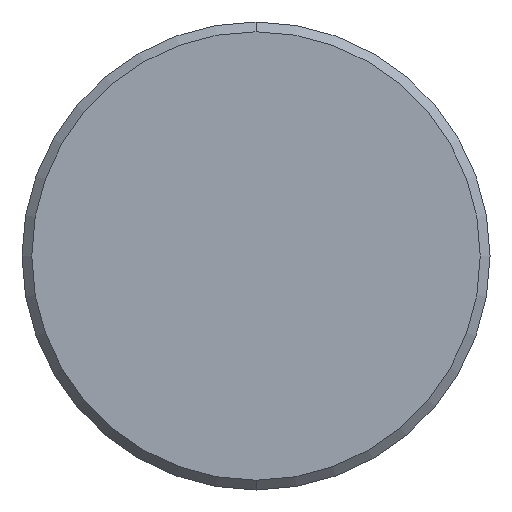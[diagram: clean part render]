
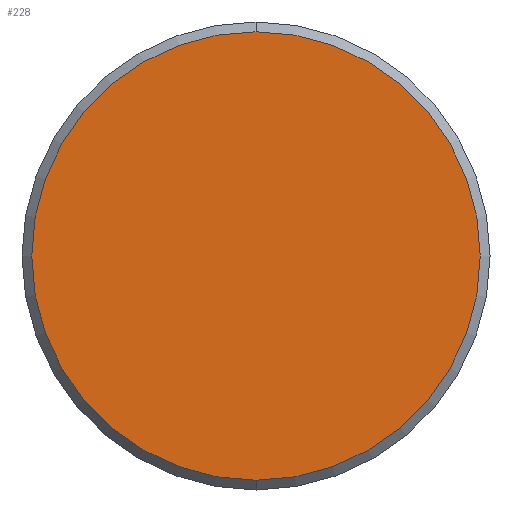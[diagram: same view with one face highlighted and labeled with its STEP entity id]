
A CAD part, front view. The second image highlights one B-rep face of the part: STEP entity #228.
In plain terms, the highlighted planar face has unit normal (0, -1, 0).
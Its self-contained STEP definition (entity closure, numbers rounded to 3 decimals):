
#33 = AXIS2_PLACEMENT_3D ( 'NONE', #156, #204, #223 ) ;
#70 = EDGE_CURVE ( 'NONE', #147, #236, #274, .T. ) ;
#87 = AXIS2_PLACEMENT_3D ( 'NONE', #233, #123, #230 ) ;
#91 = DIRECTION ( 'NONE',  ( 0., 0., 1. ) ) ;
#92 = DIRECTION ( 'NONE',  ( 0., -1., 0. ) ) ;
#101 = ORIENTED_EDGE ( 'NONE', *, *, #70, .T. ) ;
#102 = EDGE_CURVE ( 'NONE', #236, #147, #246, .T. ) ;
#106 = PLANE ( 'NONE',  #87 ) ;
#123 = DIRECTION ( 'NONE',  ( 0., 1., 0. ) ) ;
#136 = CARTESIAN_POINT ( 'NONE',  ( 0., 0., 0. ) ) ;
#147 = VERTEX_POINT ( 'NONE', #150 ) ;
#150 = CARTESIAN_POINT ( 'NONE',  ( 0., 0., 2.875 ) ) ;
#156 = CARTESIAN_POINT ( 'NONE',  ( 0., 0., 0. ) ) ;
#204 = DIRECTION ( 'NONE',  ( 0., -1., 0. ) ) ;
#207 = EDGE_LOOP ( 'NONE', ( #101, #218 ) ) ;
#218 = ORIENTED_EDGE ( 'NONE', *, *, #102, .T. ) ;
#223 = DIRECTION ( 'NONE',  ( 0., 0., 1. ) ) ;
#228 = ADVANCED_FACE ( 'NONE', ( #268 ), #106, .F. ) ;
#230 = DIRECTION ( 'NONE',  ( 0., 0., 1. ) ) ;
#232 = CARTESIAN_POINT ( 'NONE',  ( 0., 0., -2.875 ) ) ;
#233 = CARTESIAN_POINT ( 'NONE',  ( 0., 0., 0. ) ) ;
#236 = VERTEX_POINT ( 'NONE', #232 ) ;
#246 = CIRCLE ( 'NONE', #273, 2.875 ) ;
#268 = FACE_OUTER_BOUND ( 'NONE', #207, .T. ) ;
#273 = AXIS2_PLACEMENT_3D ( 'NONE', #136, #92, #91 ) ;
#274 = CIRCLE ( 'NONE', #33, 2.875 ) ;
